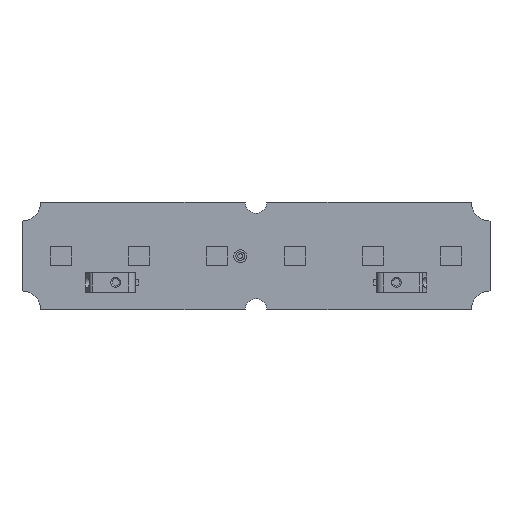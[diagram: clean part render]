
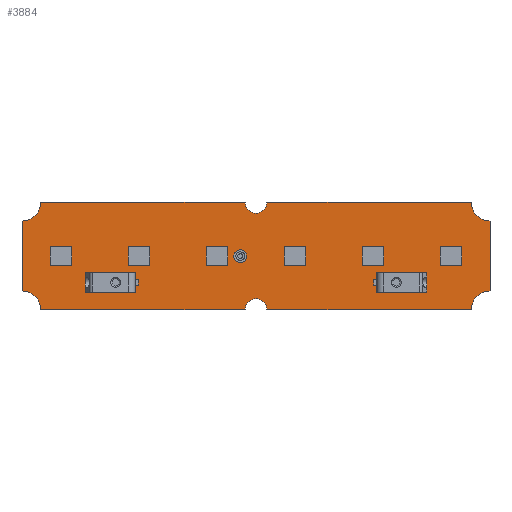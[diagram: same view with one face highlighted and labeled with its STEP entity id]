
A CAD part, top view. The second image highlights one B-rep face of the part: STEP entity #3884.
In plain terms, the highlighted planar face has unit normal (0, 0, 1).
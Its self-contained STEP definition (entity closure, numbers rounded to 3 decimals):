
#806=CARTESIAN_POINT('',(0.,7.9,1.65));
#807=DIRECTION('',(0.,0.,-1.));
#808=DIRECTION('',(1.,0.,0.));
#809=AXIS2_PLACEMENT_3D('',#806,#807,#808);
#814=CARTESIAN_POINT('',(34.5,7.9,1.65));
#815=DIRECTION('',(0.,0.,-1.));
#816=DIRECTION('',(0.,-1.,0.));
#817=AXIS2_PLACEMENT_3D('',#814,#815,#816);
#822=CARTESIAN_POINT('',(34.5,-7.9,1.65));
#823=DIRECTION('',(0.,0.,-1.));
#824=DIRECTION('',(-1.,0.,0.));
#825=AXIS2_PLACEMENT_3D('',#822,#823,#824);
#830=CARTESIAN_POINT('',(0.,-7.9,1.65));
#831=DIRECTION('',(0.,0.,-1.));
#832=DIRECTION('',(-1.,0.,0.));
#833=AXIS2_PLACEMENT_3D('',#830,#831,#832);
#838=CARTESIAN_POINT('',(-34.5,-7.9,1.65));
#839=DIRECTION('',(0.,0.,-1.));
#840=DIRECTION('',(0.,1.,0.));
#841=AXIS2_PLACEMENT_3D('',#838,#839,#840);
#846=CARTESIAN_POINT('',(-34.5,7.9,1.65));
#847=DIRECTION('',(0.,0.,-1.));
#848=DIRECTION('',(1.,0.,0.));
#849=AXIS2_PLACEMENT_3D('',#846,#847,#848);
#854=CARTESIAN_POINT('',(-2.325,-0.025,1.65));
#855=DIRECTION('',(0.,0.,-1.));
#856=DIRECTION('',(1.,0.,0.));
#857=AXIS2_PLACEMENT_3D('',#854,#855,#856);
#862=CARTESIAN_POINT('',(-2.325,-0.025,1.65));
#863=DIRECTION('',(0.,0.,-1.));
#864=DIRECTION('',(-1.,0.,0.));
#865=AXIS2_PLACEMENT_3D('',#862,#863,#864);
#870=DIRECTION('',(-1.,0.,0.));
#871=VECTOR('',#870,0.7);
#872=CARTESIAN_POINT('',(-17.45,-4.3,1.65));
#873=LINE('',#872,#871);
#877=DIRECTION('',(0.,1.,0.));
#878=VECTOR('',#877,0.8);
#879=CARTESIAN_POINT('',(-17.45,-4.3,1.65));
#880=LINE('',#879,#878);
#884=DIRECTION('',(-1.,0.,0.));
#885=VECTOR('',#884,0.7);
#886=CARTESIAN_POINT('',(-17.45,-3.5,1.65));
#887=LINE('',#886,#885);
#891=DIRECTION('',(0.,1.,0.));
#892=VECTOR('',#891,0.8);
#893=CARTESIAN_POINT('',(-18.15,-4.3,1.65));
#894=LINE('',#893,#892);
#898=DIRECTION('',(0.,1.,0.));
#899=VECTOR('',#898,0.8);
#900=CARTESIAN_POINT('',(-25.1,-4.3,1.65));
#901=LINE('',#900,#899);
#905=DIRECTION('',(-1.,0.,0.));
#906=VECTOR('',#905,0.7);
#907=CARTESIAN_POINT('',(-24.4,-4.3,1.65));
#908=LINE('',#907,#906);
#912=DIRECTION('',(0.,1.,0.));
#913=VECTOR('',#912,0.8);
#914=CARTESIAN_POINT('',(-24.4,-4.3,1.65));
#915=LINE('',#914,#913);
#919=DIRECTION('',(-1.,0.,0.));
#920=VECTOR('',#919,0.7);
#921=CARTESIAN_POINT('',(-24.4,-3.5,1.65));
#922=LINE('',#921,#920);
#926=DIRECTION('',(1.,0.,0.));
#927=VECTOR('',#926,0.7);
#928=CARTESIAN_POINT('',(17.45,-3.5,1.65));
#929=LINE('',#928,#927);
#933=DIRECTION('',(0.,-1.,0.));
#934=VECTOR('',#933,0.8);
#935=CARTESIAN_POINT('',(17.45,-3.5,1.65));
#936=LINE('',#935,#934);
#940=DIRECTION('',(1.,0.,0.));
#941=VECTOR('',#940,0.7);
#942=CARTESIAN_POINT('',(17.45,-4.3,1.65));
#943=LINE('',#942,#941);
#947=DIRECTION('',(0.,-1.,0.));
#948=VECTOR('',#947,0.8);
#949=CARTESIAN_POINT('',(18.15,-3.5,1.65));
#950=LINE('',#949,#948);
#954=DIRECTION('',(0.,-1.,0.));
#955=VECTOR('',#954,0.8);
#956=CARTESIAN_POINT('',(25.1,-3.5,1.65));
#957=LINE('',#956,#955);
#961=DIRECTION('',(1.,0.,0.));
#962=VECTOR('',#961,0.7);
#963=CARTESIAN_POINT('',(24.4,-3.5,1.65));
#964=LINE('',#963,#962);
#968=DIRECTION('',(0.,-1.,0.));
#969=VECTOR('',#968,0.8);
#970=CARTESIAN_POINT('',(24.4,-3.5,1.65));
#971=LINE('',#970,#969);
#975=DIRECTION('',(1.,0.,0.));
#976=VECTOR('',#975,0.7);
#977=CARTESIAN_POINT('',(24.4,-4.3,1.65));
#978=LINE('',#977,#976);
#982=DIRECTION('',(1.,0.,0.));
#983=VECTOR('',#982,30.15);
#984=CARTESIAN_POINT('',(-31.75,7.9,1.65));
#985=LINE('',#984,#983);
#1003=DIRECTION('',(0.,1.,0.));
#1004=VECTOR('',#1003,10.3);
#1005=CARTESIAN_POINT('',(-34.5,-5.15,1.65));
#1006=LINE('',#1005,#1004);
#1114=DIRECTION('',(-1.,0.,0.));
#1115=VECTOR('',#1114,30.15);
#1116=CARTESIAN_POINT('',(-1.6,-7.9,1.65));
#1117=LINE('',#1116,#1115);
#1135=DIRECTION('',(-1.,0.,0.));
#1136=VECTOR('',#1135,30.15);
#1137=CARTESIAN_POINT('',(31.75,-7.9,1.65));
#1138=LINE('',#1137,#1136);
#1156=DIRECTION('',(0.,-1.,0.));
#1157=VECTOR('',#1156,10.3);
#1158=CARTESIAN_POINT('',(34.5,5.15,1.65));
#1159=LINE('',#1158,#1157);
#1177=DIRECTION('',(1.,0.,0.));
#1178=VECTOR('',#1177,30.15);
#1179=CARTESIAN_POINT('',(1.6,7.9,1.65));
#1180=LINE('',#1179,#1178);
#2625=CARTESIAN_POINT('',(-3.275,-0.025,1.65));
#2627=VERTEX_POINT('',#2625);
#2629=CARTESIAN_POINT('',(34.5,5.15,1.65));
#2630=CARTESIAN_POINT('',(34.5,-5.15,1.65));
#2631=VERTEX_POINT('',#2629);
#2632=VERTEX_POINT('',#2630);
#2635=CARTESIAN_POINT('',(31.75,-7.9,1.65));
#2636=VERTEX_POINT('',#2635);
#2637=CARTESIAN_POINT('',(-1.6,-7.9,1.65));
#2639=VERTEX_POINT('',#2637);
#2641=CARTESIAN_POINT('',(1.6,7.9,1.65));
#2642=CARTESIAN_POINT('',(-1.6,7.9,1.65));
#2643=VERTEX_POINT('',#2641);
#2644=VERTEX_POINT('',#2642);
#2647=CARTESIAN_POINT('',(-31.75,-7.9,1.65));
#2648=VERTEX_POINT('',#2647);
#2652=CARTESIAN_POINT('',(31.75,7.9,1.65));
#2654=VERTEX_POINT('',#2652);
#2655=CARTESIAN_POINT('',(-1.375,-0.025,1.65));
#2656=VERTEX_POINT('',#2655);
#2661=CARTESIAN_POINT('',(-34.5,-5.15,1.65));
#2662=CARTESIAN_POINT('',(-34.5,5.15,1.65));
#2663=VERTEX_POINT('',#2661);
#2664=VERTEX_POINT('',#2662);
#2689=CARTESIAN_POINT('',(-31.75,7.9,1.65));
#2690=VERTEX_POINT('',#2689);
#2693=CARTESIAN_POINT('',(1.6,-7.9,1.65));
#2694=VERTEX_POINT('',#2693);
#3027=CARTESIAN_POINT('',(-17.45,-4.3,1.65));
#3028=CARTESIAN_POINT('',(-18.15,-4.3,1.65));
#3029=VERTEX_POINT('',#3027);
#3030=VERTEX_POINT('',#3028);
#3031=CARTESIAN_POINT('',(-17.45,-3.5,1.65));
#3032=VERTEX_POINT('',#3031);
#3033=CARTESIAN_POINT('',(-18.15,-3.5,1.65));
#3034=VERTEX_POINT('',#3033);
#3035=CARTESIAN_POINT('',(-25.1,-4.3,1.65));
#3036=CARTESIAN_POINT('',(-25.1,-3.5,1.65));
#3037=VERTEX_POINT('',#3035);
#3038=VERTEX_POINT('',#3036);
#3039=CARTESIAN_POINT('',(-24.4,-3.5,1.65));
#3040=VERTEX_POINT('',#3039);
#3041=CARTESIAN_POINT('',(-24.4,-4.3,1.65));
#3042=VERTEX_POINT('',#3041);
#3043=CARTESIAN_POINT('',(17.45,-3.5,1.65));
#3044=CARTESIAN_POINT('',(18.15,-3.5,1.65));
#3045=VERTEX_POINT('',#3043);
#3046=VERTEX_POINT('',#3044);
#3047=CARTESIAN_POINT('',(17.45,-4.3,1.65));
#3048=VERTEX_POINT('',#3047);
#3049=CARTESIAN_POINT('',(18.15,-4.3,1.65));
#3050=VERTEX_POINT('',#3049);
#3051=CARTESIAN_POINT('',(25.1,-3.5,1.65));
#3052=CARTESIAN_POINT('',(25.1,-4.3,1.65));
#3053=VERTEX_POINT('',#3051);
#3054=VERTEX_POINT('',#3052);
#3055=CARTESIAN_POINT('',(24.4,-3.5,1.65));
#3056=CARTESIAN_POINT('',(24.4,-4.3,1.65));
#3057=VERTEX_POINT('',#3055);
#3058=VERTEX_POINT('',#3056);
#3808=CARTESIAN_POINT('',(0.,0.,1.65));
#3809=DIRECTION('',(0.,0.,1.));
#3810=DIRECTION('',(1.,0.,0.));
#3811=AXIS2_PLACEMENT_3D('',#3808,#3809,#3810);
#3812=PLANE('',#3811);
#3814=ORIENTED_EDGE('',*,*,#3813,.T.);
#3816=ORIENTED_EDGE('',*,*,#3815,.F.);
#3818=ORIENTED_EDGE('',*,*,#3817,.T.);
#3820=ORIENTED_EDGE('',*,*,#3819,.F.);
#3822=ORIENTED_EDGE('',*,*,#3821,.T.);
#3824=ORIENTED_EDGE('',*,*,#3823,.F.);
#3826=ORIENTED_EDGE('',*,*,#3825,.T.);
#3828=ORIENTED_EDGE('',*,*,#3827,.F.);
#3830=ORIENTED_EDGE('',*,*,#3829,.T.);
#3832=ORIENTED_EDGE('',*,*,#3831,.F.);
#3834=ORIENTED_EDGE('',*,*,#3833,.T.);
#3836=ORIENTED_EDGE('',*,*,#3835,.F.);
#3837=EDGE_LOOP('',(#3814,#3816,#3818,#3820,#3822,#3824,#3826,#3828,#3830,#3832,
#3834,#3836));
#3838=FACE_OUTER_BOUND('',#3837,.F.);
#3840=ORIENTED_EDGE('',*,*,#3839,.F.);
#3842=ORIENTED_EDGE('',*,*,#3841,.F.);
#3843=EDGE_LOOP('',(#3840,#3842));
#3844=FACE_BOUND('',#3843,.F.);
#3846=ORIENTED_EDGE('',*,*,#3845,.F.);
#3848=ORIENTED_EDGE('',*,*,#3847,.T.);
#3850=ORIENTED_EDGE('',*,*,#3849,.T.);
#3852=ORIENTED_EDGE('',*,*,#3851,.F.);
#3853=EDGE_LOOP('',(#3846,#3848,#3850,#3852));
#3854=FACE_BOUND('',#3853,.F.);
#3856=ORIENTED_EDGE('',*,*,#3855,.F.);
#3858=ORIENTED_EDGE('',*,*,#3857,.F.);
#3860=ORIENTED_EDGE('',*,*,#3859,.T.);
#3862=ORIENTED_EDGE('',*,*,#3861,.T.);
#3863=EDGE_LOOP('',(#3856,#3858,#3860,#3862));
#3864=FACE_BOUND('',#3863,.F.);
#3866=ORIENTED_EDGE('',*,*,#3865,.F.);
#3868=ORIENTED_EDGE('',*,*,#3867,.T.);
#3870=ORIENTED_EDGE('',*,*,#3869,.T.);
#3872=ORIENTED_EDGE('',*,*,#3871,.F.);
#3873=EDGE_LOOP('',(#3866,#3868,#3870,#3872));
#3874=FACE_BOUND('',#3873,.F.);
#3876=ORIENTED_EDGE('',*,*,#3875,.F.);
#3878=ORIENTED_EDGE('',*,*,#3877,.F.);
#3880=ORIENTED_EDGE('',*,*,#3879,.T.);
#3881=ORIENTED_EDGE('',*,*,#3773,.T.);
#3882=EDGE_LOOP('',(#3876,#3878,#3880,#3881));
#3883=FACE_BOUND('',#3882,.F.);
#810=CIRCLE('',#809,1.6);
#818=CIRCLE('',#817,2.75);
#826=CIRCLE('',#825,2.75);
#834=CIRCLE('',#833,1.6);
#842=CIRCLE('',#841,2.75);
#850=CIRCLE('',#849,2.75);
#858=CIRCLE('',#857,0.95);
#866=CIRCLE('',#865,0.95);
#3773=EDGE_CURVE('',#3058,#3054,#978,.T.);
#3813=EDGE_CURVE('',#2690,#2644,#985,.T.);
#3815=EDGE_CURVE('',#2643,#2644,#810,.T.);
#3817=EDGE_CURVE('',#2643,#2654,#1180,.T.);
#3819=EDGE_CURVE('',#2631,#2654,#818,.T.);
#3821=EDGE_CURVE('',#2631,#2632,#1159,.T.);
#3823=EDGE_CURVE('',#2636,#2632,#826,.T.);
#3825=EDGE_CURVE('',#2636,#2694,#1138,.T.);
#3827=EDGE_CURVE('',#2639,#2694,#834,.T.);
#3829=EDGE_CURVE('',#2639,#2648,#1117,.T.);
#3831=EDGE_CURVE('',#2663,#2648,#842,.T.);
#3833=EDGE_CURVE('',#2663,#2664,#1006,.T.);
#3835=EDGE_CURVE('',#2690,#2664,#850,.T.);
#3839=EDGE_CURVE('',#2656,#2627,#858,.T.);
#3841=EDGE_CURVE('',#2627,#2656,#866,.T.);
#3845=EDGE_CURVE('',#3029,#3030,#873,.T.);
#3847=EDGE_CURVE('',#3029,#3032,#880,.T.);
#3849=EDGE_CURVE('',#3032,#3034,#887,.T.);
#3851=EDGE_CURVE('',#3030,#3034,#894,.T.);
#3855=EDGE_CURVE('',#3037,#3038,#901,.T.);
#3857=EDGE_CURVE('',#3042,#3037,#908,.T.);
#3859=EDGE_CURVE('',#3042,#3040,#915,.T.);
#3861=EDGE_CURVE('',#3040,#3038,#922,.T.);
#3865=EDGE_CURVE('',#3045,#3046,#929,.T.);
#3867=EDGE_CURVE('',#3045,#3048,#936,.T.);
#3869=EDGE_CURVE('',#3048,#3050,#943,.T.);
#3871=EDGE_CURVE('',#3046,#3050,#950,.T.);
#3875=EDGE_CURVE('',#3053,#3054,#957,.T.);
#3877=EDGE_CURVE('',#3057,#3053,#964,.T.);
#3879=EDGE_CURVE('',#3057,#3058,#971,.T.);
#3884=ADVANCED_FACE('',(#3838,#3844,#3854,#3864,#3874,#3883),#3812,.T.);
